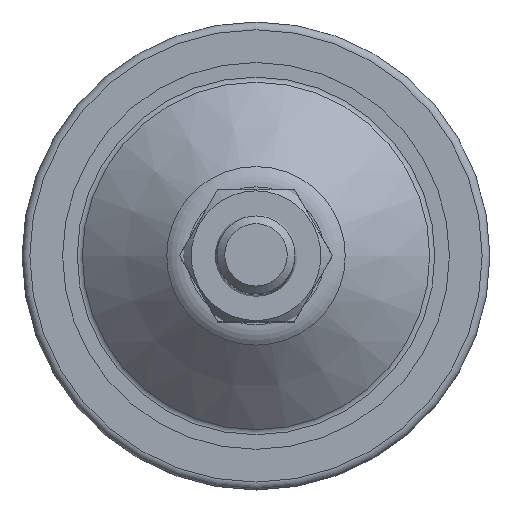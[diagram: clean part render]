
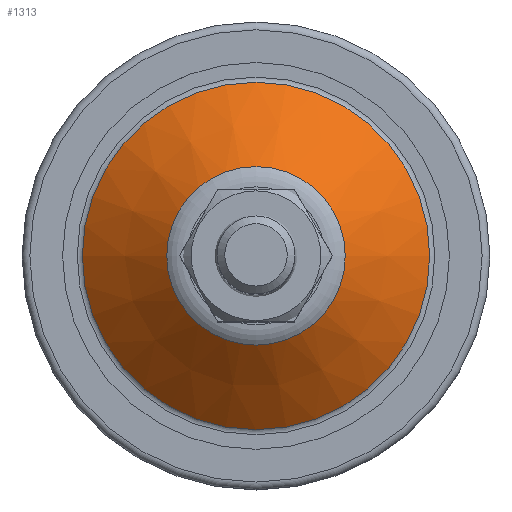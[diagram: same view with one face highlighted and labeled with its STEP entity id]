
A CAD part, top view. The second image highlights one B-rep face of the part: STEP entity #1313.
In plain terms, the highlighted conical face has half-angle 49.383 degrees and reference radius 16.86 mm.
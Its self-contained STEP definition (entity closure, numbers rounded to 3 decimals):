
#202=CONICAL_SURFACE('',#1461,16.86,49.383);
#248=FACE_BOUND('',#460,.T.);
#342=FACE_OUTER_BOUND('',#459,.T.);
#459=EDGE_LOOP('',(#1118));
#460=EDGE_LOOP('',(#1119));
#591=CIRCLE('',#1447,11.447);
#599=CIRCLE('',#1460,22.273);
#706=VERTEX_POINT('',#2199);
#714=VERTEX_POINT('',#2220);
#859=EDGE_CURVE('',#706,#706,#591,.T.);
#867=EDGE_CURVE('',#714,#714,#599,.T.);
#1118=ORIENTED_EDGE('',*,*,#859,.T.);
#1119=ORIENTED_EDGE('',*,*,#867,.F.);
#1313=ADVANCED_FACE('',(#342,#248),#202,.T.);
#1447=AXIS2_PLACEMENT_3D('',#2200,#1750,#1751);
#1460=AXIS2_PLACEMENT_3D('',#2221,#1776,#1777);
#1461=AXIS2_PLACEMENT_3D('',#2222,#1778,#1779);
#1750=DIRECTION('center_axis',(0.,0.,-1.));
#1751=DIRECTION('ref_axis',(1.,0.,0.));
#1776=DIRECTION('center_axis',(0.,0.,-1.));
#1777=DIRECTION('ref_axis',(1.,0.,0.));
#1778=DIRECTION('center_axis',(0.,0.,-1.));
#1779=DIRECTION('ref_axis',(1.,0.,0.));
#2199=CARTESIAN_POINT('',(-11.447,0.,17.025));
#2200=CARTESIAN_POINT('Origin',(0.,0.,17.025));
#2220=CARTESIAN_POINT('',(-22.273,0.,7.741));
#2221=CARTESIAN_POINT('Origin',(0.,0.,7.741));
#2222=CARTESIAN_POINT('Origin',(0.,0.,12.383));
